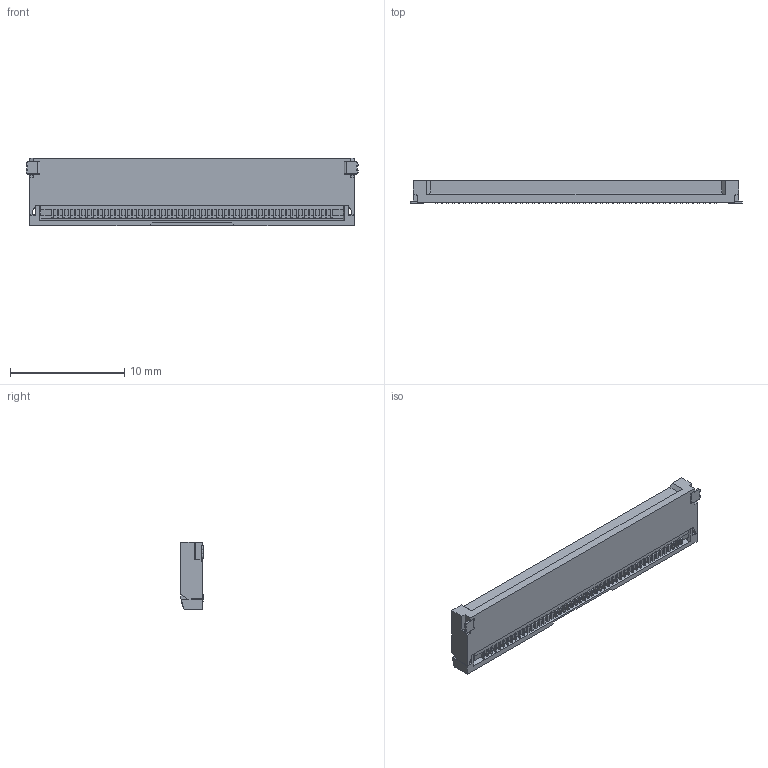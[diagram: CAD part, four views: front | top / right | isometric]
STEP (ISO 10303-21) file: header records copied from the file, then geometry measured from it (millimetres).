
FILE_DESCRIPTION (( 'STEP AP203' ), '1' );
FILE_NAME ('20477-050E-xxC ASS''Y ACT-CLOSE STEP R0 ALL.STEP', '2013-05-10T07:39:14', ( 'kaihatsu-3dcad-3' ), ( '' ), 'SwSTEP 2.0', 'SolidWorks 2011', '' );
FILE_SCHEMA (( 'CONFIG_CONTROL_DESIGN' ));
Length unit declared in the file: millimetre
Products named in the file (1): 20477-050E-xxC ASS''Y ACT-CLOSE STEP R0 ALL
Bounding box: 29.1 x 2 x 5.9 mm (x, y, z)
Volume: 296.7 mm3; surface area: 534.8 mm2
Topology: 1 solids, 1 shells, 562 faces, 1585 edges, 1022 vertices
Faces by surface type: plane 542, cylinder 18, cone 2
Entity records: 17760 total; most frequent: CARTESIAN_POINT 3194, ORIENTED_EDGE 3170, DIRECTION 2739, EDGE_CURVE 1585, VECTOR 1541, LINE 1541, VERTEX_POINT 1022, AXIS2_PLACEMENT_3D 599
